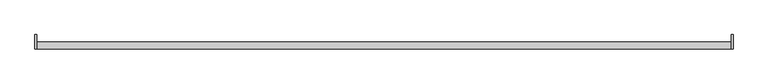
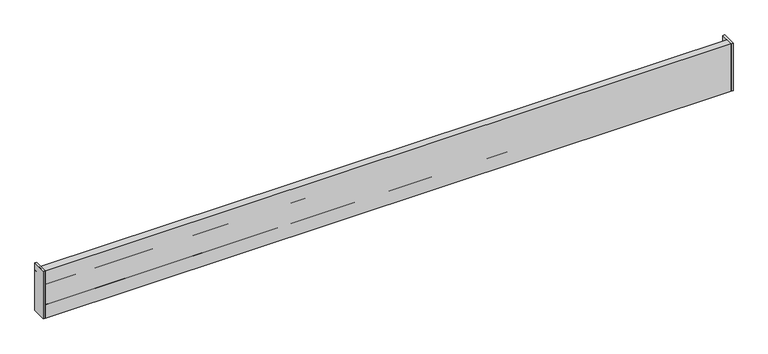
"""IFC4 building model written with IfcOpenShell, lengths in millimetres: furniture geometry."""

from ifc_helpers import new_model, si_unit, frame, origin, place, context, project, spatial, polyline, outline, extrude, source, transform, mapped, element, save


def furniture_377c570e(model_context):
    return source(origin(), model_context, "Body", "SweptSolid", [
        extrude(outline(polyline([(-606.425, 12.6999996), (-606.425, -12.7000004), (-609.6, -12.7000004), (-609.6, 12.6999996), (-606.425, 12.6999996)])), frame((0.0, 0.0, 1587.5), z_axis=(0.0, 0.0, 1.0), x_axis=(1.0, 0.0, 0.0)), (0.0, 0.0, 1.0), 88.9),
        extrude(outline(polyline([(609.6, 12.6999996), (609.6, -12.7000004), (606.425, -12.7000004), (606.425, 12.6999996), (609.6, 12.6999996)])), frame((0.0, 0.0, 1587.5), z_axis=(0.0, 0.0, 1.0), x_axis=(1.0, 0.0, 0.0)), (0.0, 0.0, 1.0), 88.9),
        extrude(outline(polyline([(606.425, 0.0), (606.425, -12.7000004), (-606.425, -12.7000004), (-606.425, 0.0), (606.425, 0.0)])), frame((0.0, 0.0, 1587.5), z_axis=(0.0, 0.0, 1.0), x_axis=(1.0, 0.0, 0.0)), (0.0, 0.0, 1.0), 88.9),
        extrude(outline(polyline([(-12.7000004, 1663.6999966), (-12.7000004, 1676.4), (0.0, 1676.4), (0.0, 1587.5), (-12.7000004, 1587.5), (-12.7000004, 1612.8999966), (-3.1750002, 1612.8999966), (-3.1750002, 1625.5999966), (-12.7000004, 1625.5999966), (-12.7000004, 1650.9999966), (-3.1750002, 1650.9999966), (-3.1750002, 1663.6999966), (-12.7000004, 1663.6999966)])), frame((-606.425, 0.0, 0.0), z_axis=(1.0, 0.0, 0.0), x_axis=(0.0, 1.0, 0.0)), (0.0, 0.0, 1.0), 1212.85),
        extrude(outline(polyline([(-12.7000004, 1676.4), (0.0, 1676.4), (0.0, 1663.6999966), (12.6999996, 1663.6999966), (12.6999996, 1600.199997), (0.0, 1600.199997), (0.0, 1587.5), (-12.7000004, 1587.5), (-12.7000004, 1676.4)])), frame((-609.6, 0.0, 0.0), z_axis=(1.0, 0.0, 0.0), x_axis=(0.0, 1.0, 0.0)), (0.0, 0.0, 1.0), 3.175),
        extrude(outline(polyline([(-12.7000004, 1676.4), (0.0, 1676.4), (0.0, 1663.6999966), (12.6999996, 1663.6999966), (12.6999996, 1600.199997), (0.0, 1600.199997), (0.0, 1587.5), (-12.7000004, 1587.5), (-12.7000004, 1676.4)])), frame((606.425, 0.0, 0.0), z_axis=(1.0, 0.0, 0.0), x_axis=(0.0, 1.0, 0.0)), (0.0, 0.0, 1.0), 3.175),
    ])


if __name__ == "__main__":
    model = new_model("IFC4")
    model_context = context("Model", 3, world=origin())
    ifc_project = project(units=[si_unit("LENGTHUNIT", "METRE", prefix="MILLI")], contexts=[model_context])
    site = spatial("IfcSite", under=ifc_project)
    building = spatial("IfcBuilding", under=site)
    placement = place(None, origin())
    furniture_shape = furniture_377c570e(model_context)
    element("IfcFurniture", 1, ObjectType="HermanMiller_ActionOffice_A3610_ToolBar : 4\"H x 48\"W", at=placement, inside=building, context=model_context, shape_type="MappedRepresentation", body=[
        mapped(furniture_shape, transform((0.0, 0.0, 0.0), x_axis=(1.0, 0.0, 0.0), y_axis=(0.0, 1.0, 0.0), z_axis=(0.0, 0.0, 1.0))),
    ])
    save(model, "model.ifc")
